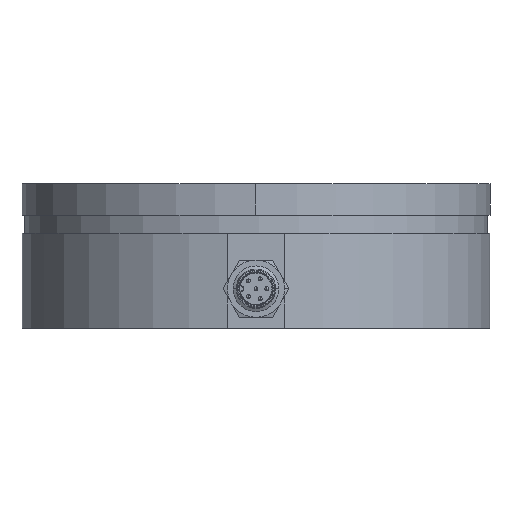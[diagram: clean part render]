
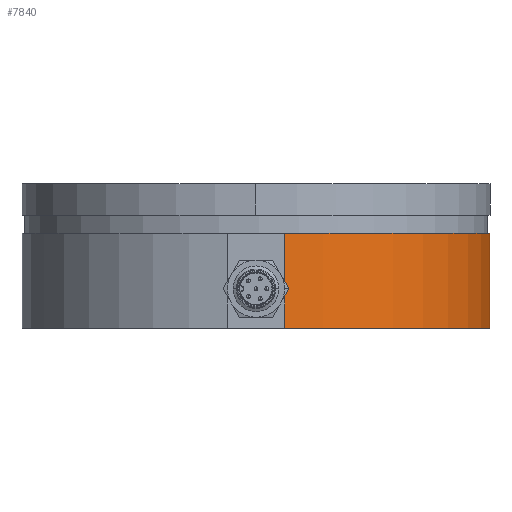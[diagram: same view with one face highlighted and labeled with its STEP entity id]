
A CAD part, front view. The second image highlights one B-rep face of the part: STEP entity #7840.
In plain terms, the highlighted cylindrical face has radius 41 mm (diameter 82 mm), a partial arc.
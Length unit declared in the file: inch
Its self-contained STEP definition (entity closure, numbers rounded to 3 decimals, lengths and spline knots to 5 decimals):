
#51 = CARTESIAN_POINT ( 'NONE',  ( 0., 0., -0.99996 ) ) ;
#751 = DIRECTION ( 'NONE',  ( 0., -1., 0. ) ) ;
#910 = CARTESIAN_POINT ( 'NONE',  ( 0., 1.61417, -0.99996 ) ) ;
#1097 = VECTOR ( 'NONE', #1373, 39.37008 ) ;
#1303 = CARTESIAN_POINT ( 'NONE',  ( 0.19685, -1.60213, 0.05189 ) ) ;
#1373 = DIRECTION ( 'NONE',  ( 0., 0., -1. ) ) ;
#1520 = EDGE_CURVE ( 'NONE', #5262, #9305, #3751, .T. ) ;
#1778 = EDGE_LOOP ( 'NONE', ( #9169, #3060, #6126, #6808, #4952 ) ) ;
#2056 = LINE ( 'NONE', #910, #2506 ) ;
#2424 = DIRECTION ( 'NONE',  ( 0., 1., 0. ) ) ;
#2506 = VECTOR ( 'NONE', #5218, 39.37008 ) ;
#2545 = VERTEX_POINT ( 'NONE', #6155 ) ;
#2700 = DIRECTION ( 'NONE',  ( 0., 0., -1. ) ) ;
#3060 = ORIENTED_EDGE ( 'NONE', *, *, #6060, .T. ) ;
#3399 = CARTESIAN_POINT ( 'NONE',  ( 0.19685, -1.60213, 0.05189 ) ) ;
#3580 = DIRECTION ( 'NONE',  ( 0., 1., 0. ) ) ;
#3751 = LINE ( 'NONE', #1303, #1097 ) ;
#3946 = VERTEX_POINT ( 'NONE', #7535 ) ;
#4319 = EDGE_CURVE ( 'NONE', #5262, #8034, #9017, .T. ) ;
#4652 = EDGE_CURVE ( 'NONE', #9305, #3946, #6718, .T. ) ;
#4952 = ORIENTED_EDGE ( 'NONE', *, *, #4652, .T. ) ;
#5043 = DIRECTION ( 'NONE',  ( 0., 0., -1. ) ) ;
#5054 = DIRECTION ( 'NONE',  ( 0., 0., 1. ) ) ;
#5218 = DIRECTION ( 'NONE',  ( 0., 0., 1. ) ) ;
#5262 = VERTEX_POINT ( 'NONE', #7808 ) ;
#5392 = AXIS2_PLACEMENT_3D ( 'NONE', #5995, #7538, #2424 ) ;
#5651 = CARTESIAN_POINT ( 'NONE',  ( 0.19685, -1.60213, -0.72567 ) ) ;
#5851 = CIRCLE ( 'NONE', #7886, 1.61417 ) ;
#5988 = AXIS2_PLACEMENT_3D ( 'NONE', #6495, #5054, #3580 ) ;
#5995 = CARTESIAN_POINT ( 'NONE',  ( 0., 0., -0.34375 ) ) ;
#6060 = EDGE_CURVE ( 'NONE', #2545, #8034, #2056, .T. ) ;
#6126 = ORIENTED_EDGE ( 'NONE', *, *, #4319, .F. ) ;
#6155 = CARTESIAN_POINT ( 'NONE',  ( 0., 1.61417, -0.99996 ) ) ;
#6495 = CARTESIAN_POINT ( 'NONE',  ( 0., 0., -0.99996 ) ) ;
#6718 = LINE ( 'NONE', #3399, #8454 ) ;
#6808 = ORIENTED_EDGE ( 'NONE', *, *, #1520, .T. ) ;
#7019 = CYLINDRICAL_SURFACE ( 'NONE', #5988, 1.61417 ) ;
#7535 = CARTESIAN_POINT ( 'NONE',  ( 0.19685, -1.60213, -0.99996 ) ) ;
#7538 = DIRECTION ( 'NONE',  ( 0., 0., 1. ) ) ;
#7808 = CARTESIAN_POINT ( 'NONE',  ( 0.19685, -1.60213, -0.34375 ) ) ;
#7840 = ADVANCED_FACE ( 'NONE', ( #9193 ), #7019, .T. ) ;
#7886 = AXIS2_PLACEMENT_3D ( 'NONE', #51, #5043, #751 ) ;
#8034 = VERTEX_POINT ( 'NONE', #9019 ) ;
#8454 = VECTOR ( 'NONE', #2700, 39.37008 ) ;
#9017 = CIRCLE ( 'NONE', #5392, 1.61417 ) ;
#9019 = CARTESIAN_POINT ( 'NONE',  ( 0., 1.61417, -0.34375 ) ) ;
#9169 = ORIENTED_EDGE ( 'NONE', *, *, #9327, .F. ) ;
#9193 = FACE_OUTER_BOUND ( 'NONE', #1778, .T. ) ;
#9305 = VERTEX_POINT ( 'NONE', #5651 ) ;
#9327 = EDGE_CURVE ( 'NONE', #2545, #3946, #5851, .T. ) ;
